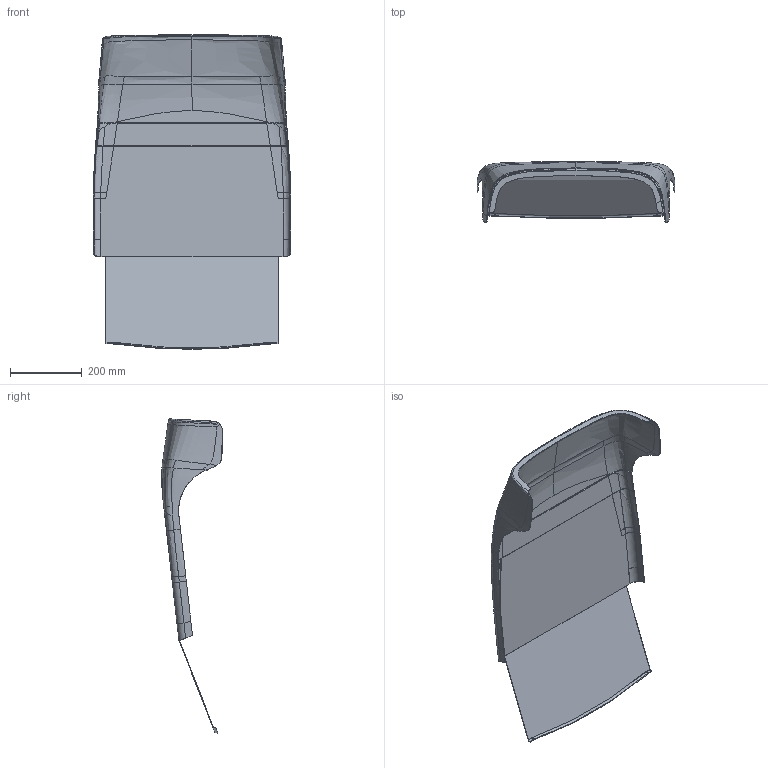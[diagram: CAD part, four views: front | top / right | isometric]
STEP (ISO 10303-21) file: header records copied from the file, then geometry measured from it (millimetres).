
FILE_DESCRIPTION(/* description */ ('Unknown'),/* implementation_level */ '2;1');
FILE_NAME(/* name */ 'Nosnik_oparcia_1kl_v99',/* time_stamp */ '2017-09-27T17:13:45+02:00',/* author */ ('Unknown'),/* organization */ ('Unknown'),/* preprocessor_version */ 'ST-DEVELOPER v16.7',/* originating_system */ 'DEX',/* authorisation */ $);
FILE_SCHEMA (('AUTOMOTIVE_DESIGN {1 0 10303 214 3 1 1}'));
Products named in the file (1): Nosnik_oparcia_1kl_0wyz
Bounding box: 550.48 x 169.7 x 876.01 mm (x, y, z)
Volume: 1125724.7 mm3; surface area: 1077318.2 mm2
Topology: 1 solids, 1 shells, 228 faces, 558 edges, 329 vertices
Faces by surface type: bspline 167, plane 33, cylinder 22, torus 5, sphere 1
Entity records: 35961 total; most frequent: CARTESIAN_POINT 30455, ORIENTED_EDGE 1110, EDGE_CURVE 555, B_SPLINE_CURVE_WITH_KNOTS 442, VERTEX_POINT 329, DIRECTION 270, EDGE_LOOP 228, FACE_BOUND 228
